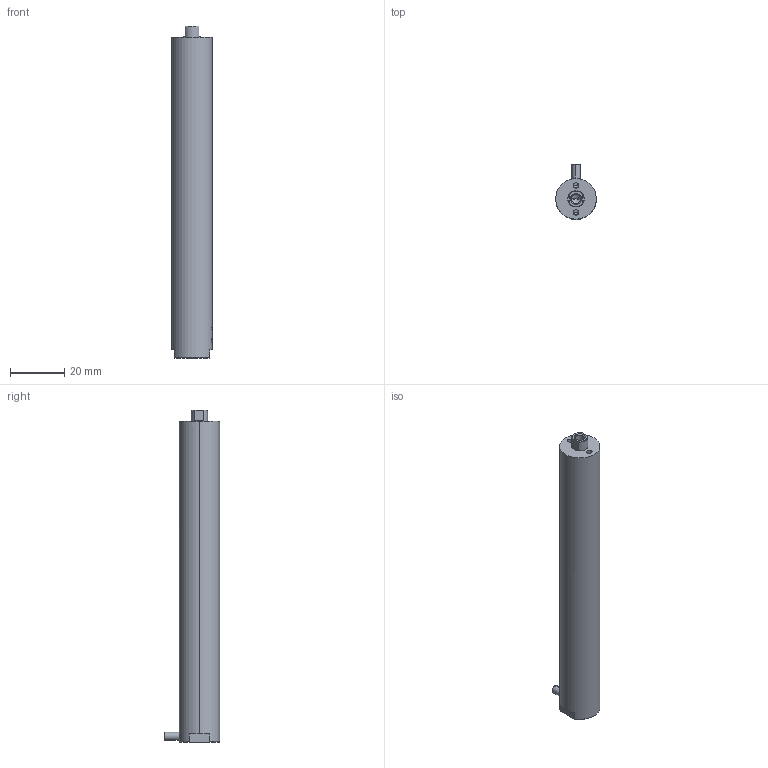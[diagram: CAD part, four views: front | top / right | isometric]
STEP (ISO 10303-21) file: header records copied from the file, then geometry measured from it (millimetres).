
FILE_DESCRIPTION (( 'STEP AP203' ), '1' );
FILE_NAME ('120VS15囀蹟恇.STEP', '2024-11-30T07:06:00', ( 'daohangxitong.com' ), ( 'daohangxitong.com' ), 'SwSTEP 2.0', 'SolidWorks 2016', '' );
FILE_SCHEMA (( 'CONFIG_CONTROL_DESIGN' ));
Products named in the file (1): 120VS15囀蹟恇
Bounding box: 15 x 20.5 x 122.8 mm (x, y, z)
Volume: 20974.4 mm3; surface area: 6187 mm2
Topology: 1 solids, 1 shells, 955 faces, 2748 edges, 1824 vertices
Faces by surface type: bspline 839, cylinder 50, plane 50, cone 16
Entity records: 51011 total; most frequent: CARTESIAN_POINT 33461, ORIENTED_EDGE 5480, EDGE_CURVE 2740, B_SPLINE_CURVE_WITH_KNOTS 2572, VERTEX_POINT 1824, EDGE_LOOP 992, ADVANCED_FACE 955, FACE_OUTER_BOUND 955
